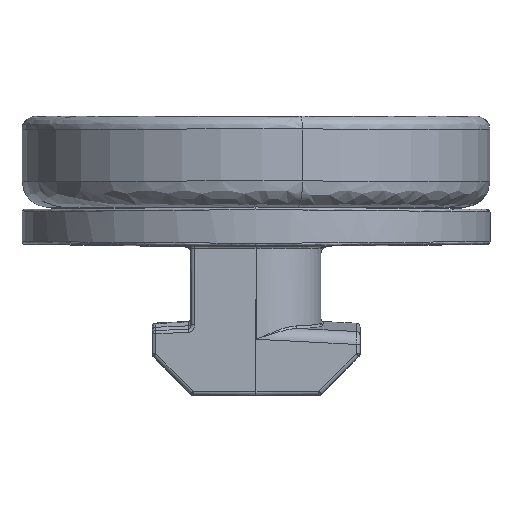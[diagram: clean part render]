
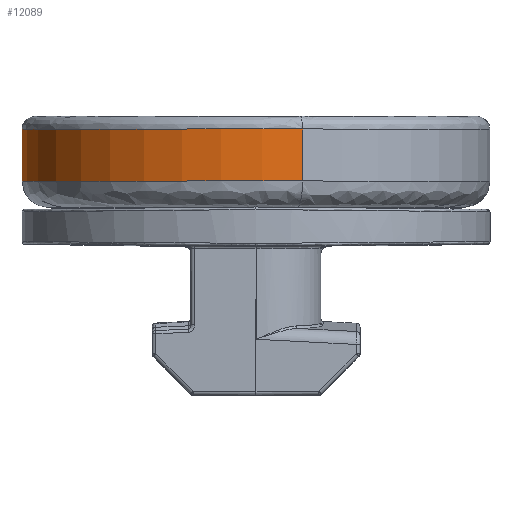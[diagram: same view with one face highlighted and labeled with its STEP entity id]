
A CAD part, top view. The second image highlights one B-rep face of the part: STEP entity #12089.
In plain terms, the highlighted cylindrical face has radius 18 mm (diameter 36 mm), a partial arc.
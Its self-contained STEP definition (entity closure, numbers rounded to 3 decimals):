
#358 = FACE_OUTER_BOUND ( 'NONE', #3113, .T. ) ;
#492 = DIRECTION ( 'NONE',  ( 0., 1., 0. ) ) ;
#676 = CARTESIAN_POINT ( 'NONE',  ( 0., 6., -18. ) ) ;
#720 = CYLINDRICAL_SURFACE ( 'NONE', #11426, 18. ) ;
#2326 = EDGE_CURVE ( 'NONE', #14540, #3333, #8043, .T. ) ;
#2884 = EDGE_CURVE ( 'NONE', #7571, #3333, #6970, .T. ) ;
#3113 = EDGE_LOOP ( 'NONE', ( #13282, #11692, #11508, #11993 ) ) ;
#3333 = VERTEX_POINT ( 'NONE', #9547 ) ;
#4355 = DIRECTION ( 'NONE',  ( 0., -1., 0. ) ) ;
#4480 = DIRECTION ( 'NONE',  ( 0., 0., -1. ) ) ;
#5703 = CARTESIAN_POINT ( 'NONE',  ( 0., -10.215, 18. ) ) ;
#6428 = AXIS2_PLACEMENT_3D ( 'NONE', #7541, #492, #8676 ) ;
#6970 = CIRCLE ( 'NONE', #11360, 18. ) ;
#7139 = VECTOR ( 'NONE', #8173, 1000. ) ;
#7541 = CARTESIAN_POINT ( 'NONE',  ( 0., 6., 0. ) ) ;
#7571 = VERTEX_POINT ( 'NONE', #12776 ) ;
#8043 = LINE ( 'NONE', #5703, #8738 ) ;
#8171 = CARTESIAN_POINT ( 'NONE',  ( 0., -10.215, -18. ) ) ;
#8173 = DIRECTION ( 'NONE',  ( 0., -1., 0. ) ) ;
#8676 = DIRECTION ( 'NONE',  ( 0., 0., -1. ) ) ;
#8738 = VECTOR ( 'NONE', #4355, 1000. ) ;
#9016 = CARTESIAN_POINT ( 'NONE',  ( 0., -10.215, 0. ) ) ;
#9273 = LINE ( 'NONE', #8171, #7139 ) ;
#9547 = CARTESIAN_POINT ( 'NONE',  ( 0., 2., 18. ) ) ;
#11360 = AXIS2_PLACEMENT_3D ( 'NONE', #11439, #11405, #11388 ) ;
#11388 = DIRECTION ( 'NONE',  ( 0., 0., -1. ) ) ;
#11405 = DIRECTION ( 'NONE',  ( 0., 1., 0. ) ) ;
#11408 = EDGE_CURVE ( 'NONE', #13377, #7571, #9273, .T. ) ;
#11426 = AXIS2_PLACEMENT_3D ( 'NONE', #9016, #14687, #4480 ) ;
#11439 = CARTESIAN_POINT ( 'NONE',  ( 0., 2., 0. ) ) ;
#11508 = ORIENTED_EDGE ( 'NONE', *, *, #11408, .T. ) ;
#11692 = ORIENTED_EDGE ( 'NONE', *, *, #13660, .F. ) ;
#11993 = ORIENTED_EDGE ( 'NONE', *, *, #2884, .T. ) ;
#12089 = ADVANCED_FACE ( 'NONE', ( #358 ), #720, .T. ) ;
#12095 = CIRCLE ( 'NONE', #6428, 18. ) ;
#12776 = CARTESIAN_POINT ( 'NONE',  ( 0., 2., -18. ) ) ;
#13282 = ORIENTED_EDGE ( 'NONE', *, *, #2326, .F. ) ;
#13377 = VERTEX_POINT ( 'NONE', #676 ) ;
#13660 = EDGE_CURVE ( 'NONE', #13377, #14540, #12095, .T. ) ;
#13804 = CARTESIAN_POINT ( 'NONE',  ( 0., 6., 18. ) ) ;
#14540 = VERTEX_POINT ( 'NONE', #13804 ) ;
#14687 = DIRECTION ( 'NONE',  ( 0., -1., 0. ) ) ;
